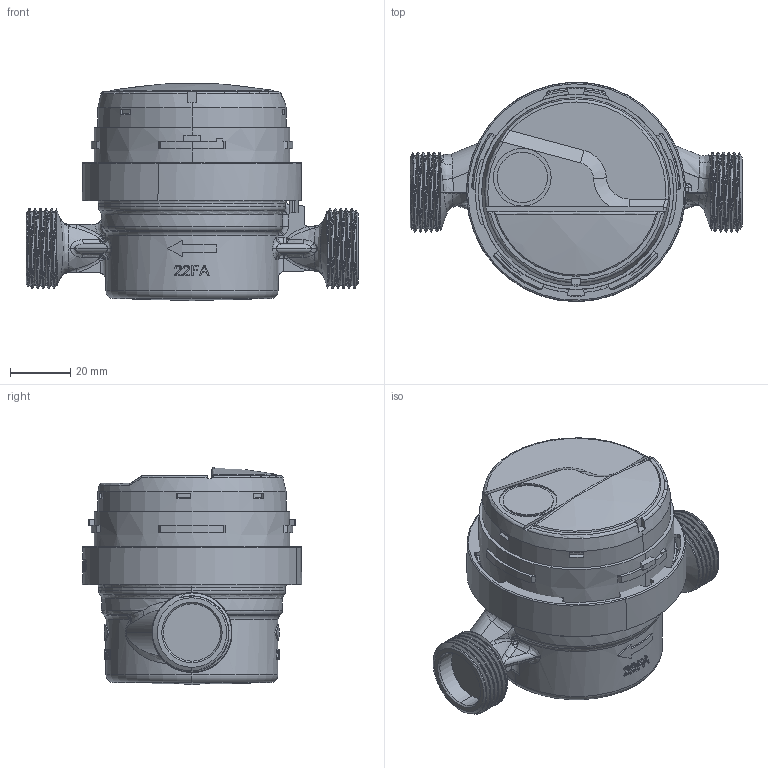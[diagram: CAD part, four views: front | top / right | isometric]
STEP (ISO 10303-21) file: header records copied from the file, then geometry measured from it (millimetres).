
FILE_DESCRIPTION (( 'STEP AP214' ), '1' );
FILE_NAME ('JS90-1,6-07.STEP', '2022-09-15T08:02:28', ( '' ), ( '' ), 'SwSTEP 2.0', 'SolidWorks 2019', '' );
FILE_SCHEMA (( 'AUTOMOTIVE_DESIGN' ));
Length unit declared in the file: millimetre
Products named in the file (8): 9004-750201; JS1,6-051; 9060-000022; JS90-1,6-07; szklanka; 9004-750200; 9004-750202_zagi﹖a; Liczyd³o
Assembly tree (7 placements, depth 3):
  JS90-1,6-07
    JS1,6-051
    Liczyd³o
    szklanka
    9004-750200
      9004-750201
      9004-750202_zagi﹖a
    9060-000022
Bounding box: 110 x 72.69 x 71.95 mm (x, y, z)
Volume: 206606.8 mm3; surface area: 62242.1 mm2
Topology: 6 solids, 15 shells, 1935 faces, 5331 edges, 3473 vertices
Faces by surface type: plane 777, bspline 511, cylinder 431, cone 139, torus 64, sphere 13
Entity records: 125204 total; most frequent: CARTESIAN_POINT 65003, ORIENTED_EDGE 10622, DIRECTION 7719, EDGE_CURVE 5311, VERTEX_POINT 3473, AXIS2_PLACEMENT_3D 2865, EDGE_LOOP 2090, LINE 1989
